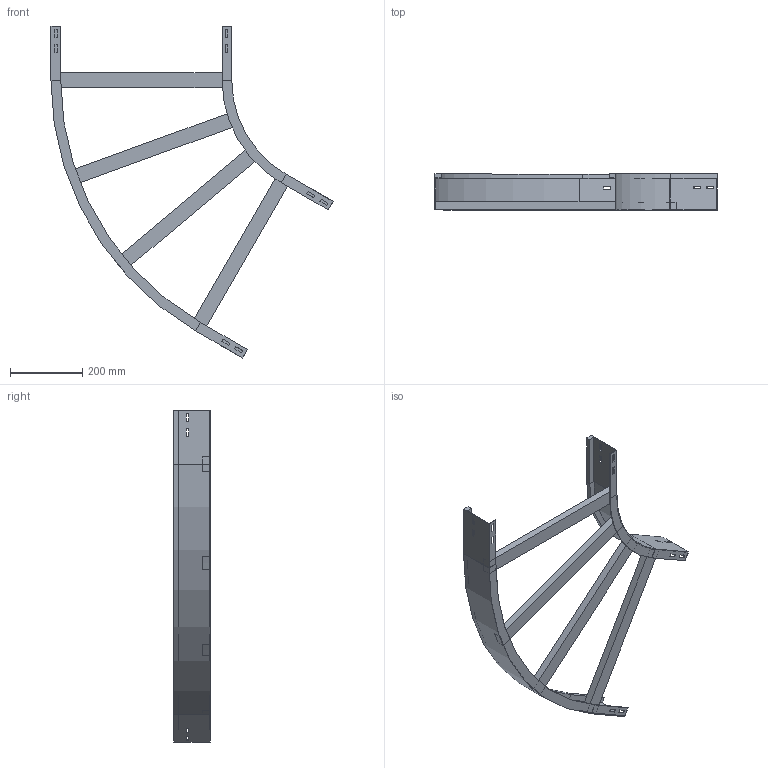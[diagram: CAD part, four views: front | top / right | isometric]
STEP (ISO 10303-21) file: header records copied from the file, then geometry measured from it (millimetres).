
FILE_DESCRIPTION (( 'STEP AP214' ), '1' );
FILE_NAME ('A2_13B3D500.step', '2025-02-21T15:17:49', ( '' ), ( '' ), 'SwSTEP 2.0', 'SolidWorks 2023', '' );
FILE_SCHEMA (( 'AUTOMOTIVE_DESIGN' ));
Length unit declared in the file: millimetre
Products named in the file (4): TRAVERSINO_500; A2_13B3D500; A2_LONGH.ESTERNO 60°_H100_R300+500; A2_LONGH.INTERNO 60°_H100_R300
Assembly tree (6 placements, depth 2):
  A2_13B3D500
    A2_LONGH.INTERNO 60°_H100_R300
    A2_LONGH.ESTERNO 60°_H100_R300+500
    TRAVERSINO_500  x4
Bounding box: 779.9 x 100 x 917.82 mm (x, y, z)
Volume: 2376459.4 mm3; surface area: 746288.3 mm2
Topology: 6 solids, 6 shells, 140 faces, 352 edges, 224 vertices
Faces by surface type: plane 132, cylinder 8
Entity records: 3829 total; most frequent: CARTESIAN_POINT 647, ORIENTED_EDGE 632, DIRECTION 594, EDGE_CURVE 316, LINE 300, VECTOR 300, VERTEX_POINT 200, EDGE_LOOP 154
